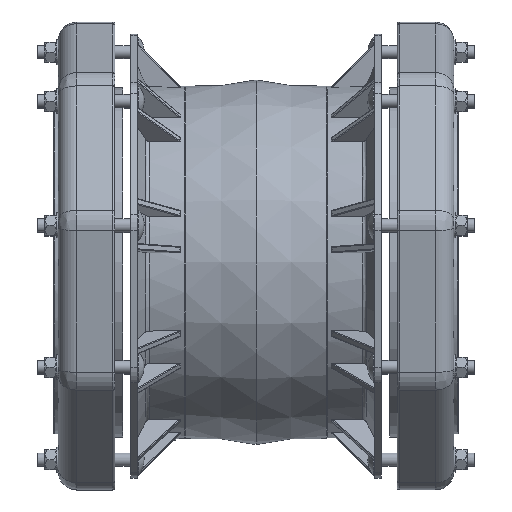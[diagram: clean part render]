
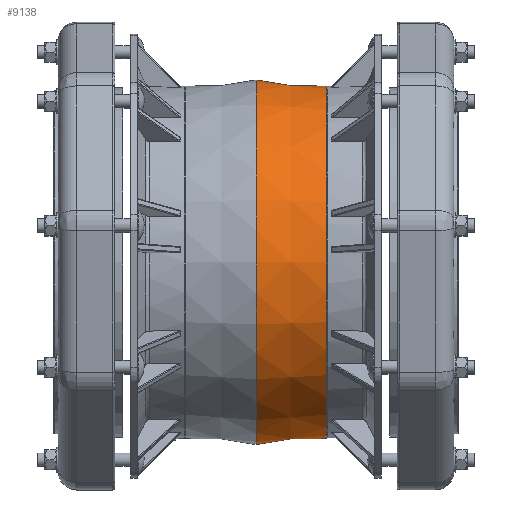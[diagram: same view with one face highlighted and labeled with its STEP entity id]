
A CAD part, top view. The second image highlights one B-rep face of the part: STEP entity #9138.
In plain terms, the highlighted conical face has half-angle 4.934 degrees and reference radius 216.713 mm.
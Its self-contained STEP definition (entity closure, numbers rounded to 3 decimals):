
#9111=CARTESIAN_POINT('',(-128.974,0.0,0.0));
#9112=DIRECTION('',(-1.0,0.0,0.0));
#9113=DIRECTION('',(0.0,-1.0,0.0));
#9114=AXIS2_PLACEMENT_3D('',#9111,#9112,#9113);
#9115=CONICAL_SURFACE('',#9114,216.713,4.934);
#9116=CARTESIAN_POINT('',(-65.516,0.,-211.235));
#9117=VERTEX_POINT('',#9116);
#9118=CARTESIAN_POINT('',(-65.516,0.0,0.0));
#9119=DIRECTION('',(-1.0,0.0,0.0));
#9120=DIRECTION('',(0.0,-1.0,0.0));
#9121=AXIS2_PLACEMENT_3D('',#9118,#9119,#9120);
#9122=CIRCLE('',#9121,211.235);
#9123=EDGE_CURVE('',#9117,#9117,#9122,.T.);
#9124=ORIENTED_EDGE('',*,*,#9123,.T.);
#9125=EDGE_LOOP('',(#9124));
#9126=FACE_OUTER_BOUND('',#9125,.T.);
#9127=CARTESIAN_POINT('',(-150.0,218.528,0.));
#9128=VERTEX_POINT('',#9127);
#9129=CARTESIAN_POINT('',(-150.0,0.0,0.0));
#9130=DIRECTION('',(-1.0,0.0,0.0));
#9131=DIRECTION('',(0.0,-1.0,0.0));
#9132=AXIS2_PLACEMENT_3D('',#9129,#9130,#9131);
#9133=CIRCLE('',#9132,218.528);
#9134=EDGE_CURVE('',#9128,#9128,#9133,.T.);
#9135=ORIENTED_EDGE('',*,*,#9134,.F.);
#9136=EDGE_LOOP('',(#9135));
#9137=FACE_BOUND('',#9136,.T.);
#9138=ADVANCED_FACE('',(#9126,#9137),#9115,.T.);
